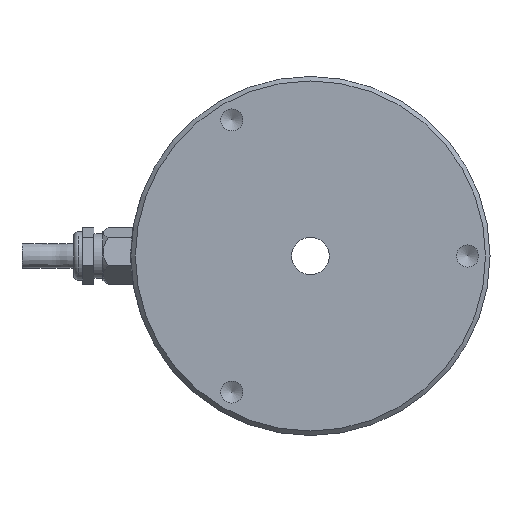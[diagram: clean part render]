
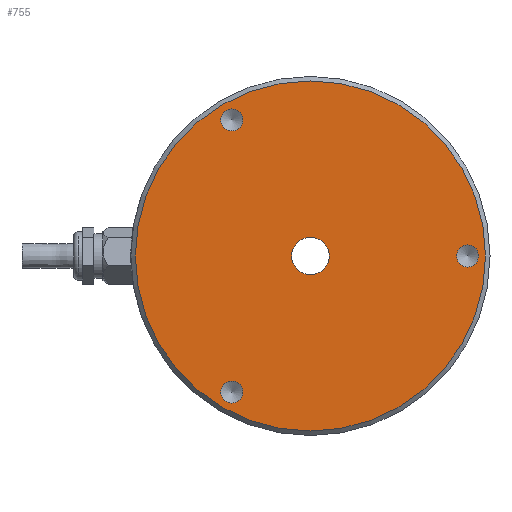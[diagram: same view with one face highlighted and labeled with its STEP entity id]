
A CAD part, front view. The second image highlights one B-rep face of the part: STEP entity #755.
In plain terms, the highlighted planar face has unit normal (0, -1, 0).
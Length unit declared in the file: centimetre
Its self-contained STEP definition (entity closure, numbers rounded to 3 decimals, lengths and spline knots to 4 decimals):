
#124=PLANE('',#811);
#226=VERTEX_POINT('',#895);
#235=VERTEX_POINT('',#1047);
#236=VERTEX_POINT('',#1049);
#237=VERTEX_POINT('',#1051);
#238=VERTEX_POINT('',#1053);
#295=CIRCLE('',#807,3.9);
#298=CIRCLE('',#812,0.4188);
#299=CIRCLE('',#813,0.2459);
#300=CIRCLE('',#814,0.2459);
#301=CIRCLE('',#815,0.2459);
#331=EDGE_CURVE('',#226,#226,#295,.T.);
#340=EDGE_CURVE('',#235,#235,#298,.T.);
#341=EDGE_CURVE('',#236,#236,#299,.T.);
#342=EDGE_CURVE('',#237,#237,#300,.T.);
#343=EDGE_CURVE('',#238,#238,#301,.T.);
#421=ORIENTED_EDGE('',*,*,#340,.T.);
#422=ORIENTED_EDGE('',*,*,#341,.T.);
#423=ORIENTED_EDGE('',*,*,#342,.T.);
#424=ORIENTED_EDGE('',*,*,#343,.T.);
#425=ORIENTED_EDGE('',*,*,#331,.F.);
#576=EDGE_LOOP('',(#421));
#577=EDGE_LOOP('',(#422));
#578=EDGE_LOOP('',(#423));
#579=EDGE_LOOP('',(#424));
#580=EDGE_LOOP('',(#425));
#665=FACE_BOUND('',#576,.T.);
#666=FACE_BOUND('',#577,.T.);
#667=FACE_BOUND('',#578,.T.);
#668=FACE_BOUND('',#579,.T.);
#669=FACE_BOUND('',#580,.T.);
#755=ADVANCED_FACE('',(#665,#666,#667,#668,#669),#124,.T.);
#807=AXIS2_PLACEMENT_3D('',#894,#1429,#1430);
#811=AXIS2_PLACEMENT_3D('',#1045,#1439,$);
#812=AXIS2_PLACEMENT_3D('',#1046,#1440,#1441);
#813=AXIS2_PLACEMENT_3D('',#1048,#1442,#1443);
#814=AXIS2_PLACEMENT_3D('',#1050,#1444,#1445);
#815=AXIS2_PLACEMENT_3D('',#1052,#1446,#1447);
#894=CARTESIAN_POINT('',(0.,-2.5,0.));
#895=CARTESIAN_POINT('',(3.9,-2.5,0.));
#1045=CARTESIAN_POINT('',(2.,-2.5,0.));
#1046=CARTESIAN_POINT('',(0.,-2.5,0.));
#1047=CARTESIAN_POINT('',(-0.4188,-2.5,0.));
#1048=CARTESIAN_POINT('',(3.5,-2.5,0.));
#1049=CARTESIAN_POINT('',(3.5,-2.5,-0.2459));
#1050=CARTESIAN_POINT('',(-1.75,-2.5,-3.0311));
#1051=CARTESIAN_POINT('',(-1.75,-2.5,-3.2769));
#1052=CARTESIAN_POINT('',(-1.75,-2.5,3.0311));
#1053=CARTESIAN_POINT('',(-1.75,-2.5,2.7852));
#1429=DIRECTION('',(0.,1.,0.));
#1430=DIRECTION('',(-3.9,0.,0.));
#1439=DIRECTION('',(0.,-1.,0.));
#1440=DIRECTION('',(0.,1.,0.));
#1441=DIRECTION('',(0.419,0.,0.));
#1442=DIRECTION('',(0.,1.,0.));
#1443=DIRECTION('',(0.,0.,-0.246));
#1444=DIRECTION('',(0.,1.,0.));
#1445=DIRECTION('',(0.,0.,-0.246));
#1446=DIRECTION('',(0.,1.,0.));
#1447=DIRECTION('',(0.,0.,-0.246));
